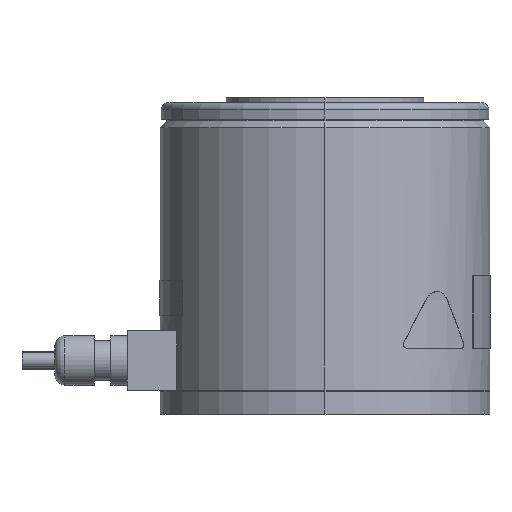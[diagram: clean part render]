
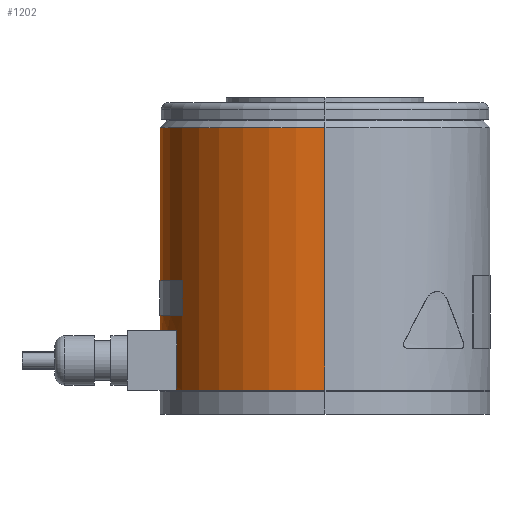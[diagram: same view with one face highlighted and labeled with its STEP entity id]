
A CAD part, left-side view. The second image highlights one B-rep face of the part: STEP entity #1202.
In plain terms, the highlighted cylindrical face has radius 50 mm (diameter 100 mm), a partial arc.
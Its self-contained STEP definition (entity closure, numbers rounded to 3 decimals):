
#1 = ORIENTED_EDGE ( 'NONE', *, *, #4825, .F. ) ;
#5 = ORIENTED_EDGE ( 'NONE', *, *, #4811, .T. ) ;
#6 = ORIENTED_EDGE ( 'NONE', *, *, #4827, .T. ) ;
#7 = ORIENTED_EDGE ( 'NONE', *, *, #4824, .F. ) ;
#10 = ORIENTED_EDGE ( 'NONE', *, *, #4819, .F. ) ;
#11 = ORIENTED_EDGE ( 'NONE', *, *, #4821, .T. ) ;
#12 = ORIENTED_EDGE ( 'NONE', *, *, #4829, .F. ) ;
#17 = ORIENTED_EDGE ( 'NONE', *, *, #4822, .F. ) ;
#59 = EDGE_LOOP ( 'NONE', ( #6419, #6, #12, #2409 ) ) ;
#244 = FACE_BOUND ( 'NONE', #4622, .T. ) ;
#248 = CYLINDRICAL_SURFACE ( 'NONE', #5654, 50. ) ;
#252 = FACE_BOUND ( 'NONE', #4602, .T. ) ;
#254 = FACE_OUTER_BOUND ( 'NONE', #59, .T. ) ;
#1044 = CARTESIAN_POINT ( 'NONE',  ( 50., 0., 0. ) ) ;
#1045 = DIRECTION ( 'NONE',  ( 0., 0., -1. ) ) ;
#1047 = CARTESIAN_POINT ( 'NONE',  ( 0., 0., 8.3 ) ) ;
#1048 = DIRECTION ( 'NONE',  ( 0., 0., -1. ) ) ;
#1049 = DIRECTION ( 'NONE',  ( -1., 0., 0. ) ) ;
#1050 = CARTESIAN_POINT ( 'NONE',  ( 21.75, 45.022, 25.3 ) ) ;
#1051 = DIRECTION ( 'NONE',  ( 0., 0., -1. ) ) ;
#1052 = DIRECTION ( 'NONE',  ( -1., 0., 0. ) ) ;
#1053 = CARTESIAN_POINT ( 'NONE',  ( 0., 0., 40.5 ) ) ;
#1057 = DIRECTION ( 'NONE',  ( -1., 0., 0. ) ) ;
#1058 = DIRECTION ( 'NONE',  ( 0., 0., 1. ) ) ;
#1064 = DIRECTION ( 'NONE',  ( 0., 0., -1. ) ) ;
#1082 = CARTESIAN_POINT ( 'NONE',  ( -50., 0., 0. ) ) ;
#1083 = DIRECTION ( 'NONE',  ( 0., 0., -1. ) ) ;
#1105 = DIRECTION ( 'NONE',  ( 0., 0., 1. ) ) ;
#1114 = DIRECTION ( 'NONE',  ( 0., 0., -1. ) ) ;
#1137 = CARTESIAN_POINT ( 'NONE',  ( 0., 0., 7.3 ) ) ;
#1145 = DIRECTION ( 'NONE',  ( 1., 0., 0. ) ) ;
#1202 = ADVANCED_FACE ( 'NONE', ( #244, #252, #254 ), #248, .T. ) ;
#2248 = CARTESIAN_POINT ( 'NONE',  ( -25., 43.301, 0. ) ) ;
#2250 = CARTESIAN_POINT ( 'NONE',  ( -21.75, 45.022, 25.3 ) ) ;
#2256 = DIRECTION ( 'NONE',  ( -1., 0., 0. ) ) ;
#2261 = DIRECTION ( 'NONE',  ( 0., 0., -1. ) ) ;
#2272 = DIRECTION ( 'NONE',  ( 0., 0., -1. ) ) ;
#2273 = DIRECTION ( 'NONE',  ( 0., 0., 1. ) ) ;
#2275 = DIRECTION ( 'NONE',  ( 0., 0., 1. ) ) ;
#2279 = CARTESIAN_POINT ( 'NONE',  ( 0., 0., 30. ) ) ;
#2286 = CARTESIAN_POINT ( 'NONE',  ( 0., 0., 87. ) ) ;
#2287 = CARTESIAN_POINT ( 'NONE',  ( 25., 43.301, 0. ) ) ;
#2288 = CARTESIAN_POINT ( 'NONE',  ( 0., 0., 25.3 ) ) ;
#2289 = DIRECTION ( 'NONE',  ( -1., 0., 0. ) ) ;
#2409 = ORIENTED_EDGE ( 'NONE', *, *, #4826, .F. ) ;
#2890 = DIRECTION ( 'NONE',  ( -1., 0., 0. ) ) ;
#2904 = VERTEX_POINT ( 'NONE', #3354 ) ;
#2914 = CARTESIAN_POINT ( 'NONE',  ( 50., 0., 87. ) ) ;
#3004 = CARTESIAN_POINT ( 'NONE',  ( -25., 43.301, 40.5 ) ) ;
#3008 = VERTEX_POINT ( 'NONE', #2914 ) ;
#3030 = VERTEX_POINT ( 'NONE', #3118 ) ;
#3082 = DIRECTION ( 'NONE',  ( 0., 0., -1. ) ) ;
#3118 = CARTESIAN_POINT ( 'NONE',  ( -21.75, 45.022, 8.3 ) ) ;
#3135 = VERTEX_POINT ( 'NONE', #3377 ) ;
#3157 = CARTESIAN_POINT ( 'NONE',  ( 21.75, 45.022, 25.3 ) ) ;
#3261 = CARTESIAN_POINT ( 'NONE',  ( 0., 0., 0. ) ) ;
#3354 = CARTESIAN_POINT ( 'NONE',  ( -50., 0., 87. ) ) ;
#3377 = CARTESIAN_POINT ( 'NONE',  ( 21.75, 45.022, 8.3 ) ) ;
#3622 = VERTEX_POINT ( 'NONE', #3157 ) ;
#3667 = VERTEX_POINT ( 'NONE', #3004 ) ;
#3772 = VERTEX_POINT ( 'NONE', #4479 ) ;
#3916 = VERTEX_POINT ( 'NONE', #4509 ) ;
#4003 = VERTEX_POINT ( 'NONE', #4460 ) ;
#4028 = VERTEX_POINT ( 'NONE', #4264 ) ;
#4030 = VERTEX_POINT ( 'NONE', #4457 ) ;
#4105 = VERTEX_POINT ( 'NONE', #4468 ) ;
#4234 = ORIENTED_EDGE ( 'NONE', *, *, #4823, .F. ) ;
#4237 = ORIENTED_EDGE ( 'NONE', *, *, #4820, .F. ) ;
#4264 = CARTESIAN_POINT ( 'NONE',  ( 25., 43.301, 30. ) ) ;
#4457 = CARTESIAN_POINT ( 'NONE',  ( -50., 0., 7.3 ) ) ;
#4460 = CARTESIAN_POINT ( 'NONE',  ( 25., 43.301, 40.5 ) ) ;
#4468 = CARTESIAN_POINT ( 'NONE',  ( -25., 43.301, 30. ) ) ;
#4479 = CARTESIAN_POINT ( 'NONE',  ( -21.75, 45.022, 25.3 ) ) ;
#4509 = CARTESIAN_POINT ( 'NONE',  ( 50., 0., 7.3 ) ) ;
#4602 = EDGE_LOOP ( 'NONE', ( #4237, #10, #1, #7 ) ) ;
#4622 = EDGE_LOOP ( 'NONE', ( #17, #11, #5, #4234 ) ) ;
#4811 = EDGE_CURVE ( 'NONE', #3772, #3030, #6065, .T. ) ;
#4817 = EDGE_CURVE ( 'NONE', #2904, #3008, #6079, .T. ) ;
#4819 = EDGE_CURVE ( 'NONE', #4028, #4105, #6082, .T. ) ;
#4820 = EDGE_CURVE ( 'NONE', #4105, #3667, #6081, .T. ) ;
#4821 = EDGE_CURVE ( 'NONE', #3622, #3772, #6085, .T. ) ;
#4822 = EDGE_CURVE ( 'NONE', #3622, #3135, #6077, .T. ) ;
#4823 = EDGE_CURVE ( 'NONE', #3135, #3030, #6087, .T. ) ;
#4824 = EDGE_CURVE ( 'NONE', #3667, #4003, #6089, .T. ) ;
#4825 = EDGE_CURVE ( 'NONE', #4003, #4028, #6088, .T. ) ;
#4826 = EDGE_CURVE ( 'NONE', #2904, #4030, #6084, .T. ) ;
#4827 = EDGE_CURVE ( 'NONE', #3008, #3916, #6083, .T. ) ;
#4829 = EDGE_CURVE ( 'NONE', #4030, #3916, #6096, .T. ) ;
#5654 = AXIS2_PLACEMENT_3D ( 'NONE', #3261, #3082, #2890 ) ;
#5753 = AXIS2_PLACEMENT_3D ( 'NONE', #2279, #2275, #2289 ) ;
#5754 = AXIS2_PLACEMENT_3D ( 'NONE', #2286, #2261, #2256 ) ;
#5755 = AXIS2_PLACEMENT_3D ( 'NONE', #2288, #1058, #1052 ) ;
#5756 = AXIS2_PLACEMENT_3D ( 'NONE', #1137, #1083, #1057 ) ;
#5757 = AXIS2_PLACEMENT_3D ( 'NONE', #1047, #1105, #1049 ) ;
#5758 = AXIS2_PLACEMENT_3D ( 'NONE', #1053, #1064, #1145 ) ;
#6065 = LINE ( 'NONE', #2250, #6068 ) ;
#6068 = VECTOR ( 'NONE', #2272, 1000. ) ;
#6075 = VECTOR ( 'NONE', #2273, 1000. ) ;
#6077 = LINE ( 'NONE', #1050, #6080 ) ;
#6079 = CIRCLE ( 'NONE', #5754, 50. ) ;
#6080 = VECTOR ( 'NONE', #1051, 1000. ) ;
#6081 = LINE ( 'NONE', #2248, #6075 ) ;
#6082 = CIRCLE ( 'NONE', #5753, 50. ) ;
#6083 = LINE ( 'NONE', #1044, #6092 ) ;
#6084 = LINE ( 'NONE', #1082, #6090 ) ;
#6085 = CIRCLE ( 'NONE', #5755, 50. ) ;
#6086 = VECTOR ( 'NONE', #1045, 1000. ) ;
#6087 = CIRCLE ( 'NONE', #5757, 50. ) ;
#6088 = LINE ( 'NONE', #2287, #6086 ) ;
#6089 = CIRCLE ( 'NONE', #5758, 50. ) ;
#6090 = VECTOR ( 'NONE', #1048, 1000. ) ;
#6092 = VECTOR ( 'NONE', #1114, 1000. ) ;
#6096 = CIRCLE ( 'NONE', #5756, 50. ) ;
#6419 = ORIENTED_EDGE ( 'NONE', *, *, #4817, .T. ) ;
